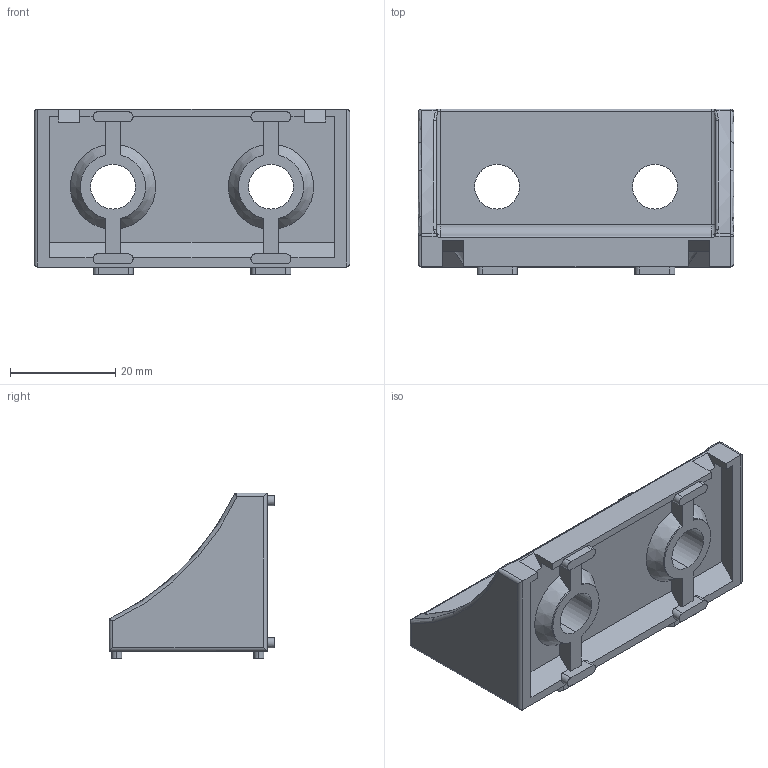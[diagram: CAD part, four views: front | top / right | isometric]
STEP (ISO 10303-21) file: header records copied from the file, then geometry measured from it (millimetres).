
FILE_DESCRIPTION (( 'STEP AP214' ), '1' );
FILE_NAME ('1232.STEP', '2023-01-18T09:46:14', ( '' ), ( '' ), 'SwSTEP 2.0', 'SolidWorks 2020', '' );
FILE_SCHEMA (( 'AUTOMOTIVE_DESIGN' ));
Length unit declared in the file: millimetre
Products named in the file (1): 1232
Bounding box: 60 x 31.5 x 31.5 mm (x, y, z)
Volume: 13810.1 mm3; surface area: 10047.3 mm2
Topology: 1 solids, 1 shells, 181 faces, 506 edges, 322 vertices
Faces by surface type: plane 94, cylinder 57, cone 10, torus 10, bspline 6, sphere 4
Entity records: 5993 total; most frequent: CARTESIAN_POINT 1337, ORIENTED_EDGE 1002, DIRECTION 943, EDGE_CURVE 501, VERTEX_POINT 322, VECTOR 315, LINE 315, AXIS2_PLACEMENT_3D 314
